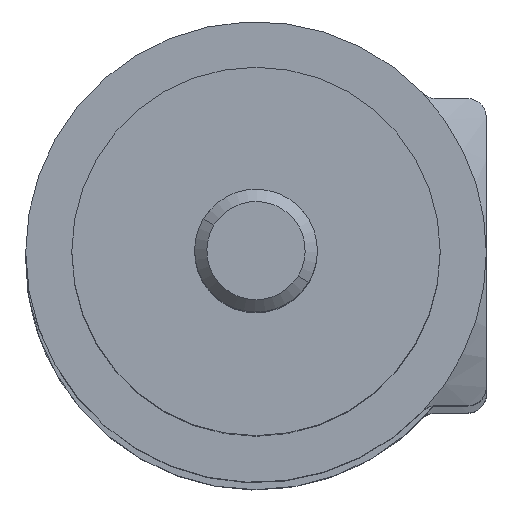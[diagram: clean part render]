
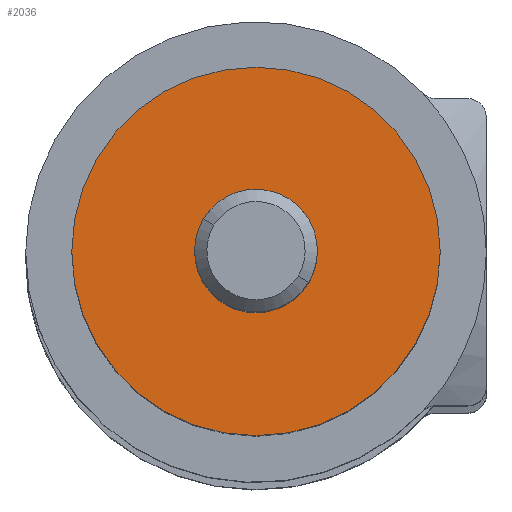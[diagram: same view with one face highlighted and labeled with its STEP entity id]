
A CAD part, top view. The second image highlights one B-rep face of the part: STEP entity #2036.
In plain terms, the highlighted planar face has unit normal (0, 0, 1) as drawn and (0, 0, -1) by its records, which use the part's own axes.
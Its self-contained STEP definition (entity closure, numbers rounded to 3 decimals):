
#248 = CARTESIAN_POINT ( 'NONE',  ( 6., 0., 0. ) ) ;
#476 = CIRCLE ( 'NONE', #4696, 2. ) ;
#598 = CARTESIAN_POINT ( 'NONE',  ( -6., 0., 0. ) ) ;
#727 = VERTEX_POINT ( 'NONE', #1716 ) ;
#812 = ORIENTED_EDGE ( 'NONE', *, *, #2412, .T. ) ;
#819 = DIRECTION ( 'NONE',  ( -1., 0., 0. ) ) ;
#966 = CARTESIAN_POINT ( 'NONE',  ( 0., 0., 0. ) ) ;
#1182 = DIRECTION ( 'NONE',  ( 0., 0., -1. ) ) ;
#1271 = CARTESIAN_POINT ( 'NONE',  ( 0., 0., 0. ) ) ;
#1276 = DIRECTION ( 'NONE',  ( 0., 0., -1. ) ) ;
#1284 = DIRECTION ( 'NONE',  ( -1., 0., 0. ) ) ;
#1303 = AXIS2_PLACEMENT_3D ( 'NONE', #3549, #3568, #3577 ) ;
#1316 = EDGE_CURVE ( 'NONE', #5049, #1758, #5026, .T. ) ;
#1716 = CARTESIAN_POINT ( 'NONE',  ( -2., 0., 0. ) ) ;
#1758 = VERTEX_POINT ( 'NONE', #598 ) ;
#2035 = CIRCLE ( 'NONE', #1303, 2. ) ;
#2036 = ADVANCED_FACE ( 'NONE', ( #4462, #3638 ), #4060, .F. ) ;
#2167 = AXIS2_PLACEMENT_3D ( 'NONE', #2242, #2205, #2425 ) ;
#2205 = DIRECTION ( 'NONE',  ( 0., 0., -1. ) ) ;
#2242 = CARTESIAN_POINT ( 'NONE',  ( 0., 0., 0. ) ) ;
#2305 = ORIENTED_EDGE ( 'NONE', *, *, #1316, .T. ) ;
#2359 = EDGE_LOOP ( 'NONE', ( #812, #2305 ) ) ;
#2367 = DIRECTION ( 'NONE',  ( 1., 0., 0. ) ) ;
#2412 = EDGE_CURVE ( 'NONE', #1758, #5049, #4254, .T. ) ;
#2425 = DIRECTION ( 'NONE',  ( -1., 0., 0. ) ) ;
#2446 = EDGE_LOOP ( 'NONE', ( #5126, #4545 ) ) ;
#2548 = DIRECTION ( 'NONE',  ( 0., 0., 1. ) ) ;
#2868 = AXIS2_PLACEMENT_3D ( 'NONE', #966, #1182, #819 ) ;
#3351 = EDGE_CURVE ( 'NONE', #727, #5408, #476, .T. ) ;
#3549 = CARTESIAN_POINT ( 'NONE',  ( 0., 0., 0. ) ) ;
#3568 = DIRECTION ( 'NONE',  ( 0., 0., -1. ) ) ;
#3577 = DIRECTION ( 'NONE',  ( -1., 0., 0. ) ) ;
#3638 = FACE_BOUND ( 'NONE', #2446, .T. ) ;
#4060 = PLANE ( 'NONE',  #5510 ) ;
#4254 = CIRCLE ( 'NONE', #2167, 6. ) ;
#4274 = CARTESIAN_POINT ( 'NONE',  ( 2., 0., 0. ) ) ;
#4438 = CARTESIAN_POINT ( 'NONE',  ( -6.072, -6.072, 0. ) ) ;
#4462 = FACE_OUTER_BOUND ( 'NONE', #2359, .T. ) ;
#4530 = EDGE_CURVE ( 'NONE', #5408, #727, #2035, .T. ) ;
#4545 = ORIENTED_EDGE ( 'NONE', *, *, #4530, .F. ) ;
#4696 = AXIS2_PLACEMENT_3D ( 'NONE', #1271, #1276, #1284 ) ;
#5026 = CIRCLE ( 'NONE', #2868, 6. ) ;
#5049 = VERTEX_POINT ( 'NONE', #248 ) ;
#5126 = ORIENTED_EDGE ( 'NONE', *, *, #3351, .F. ) ;
#5408 = VERTEX_POINT ( 'NONE', #4274 ) ;
#5510 = AXIS2_PLACEMENT_3D ( 'NONE', #4438, #2548, #2367 ) ;
